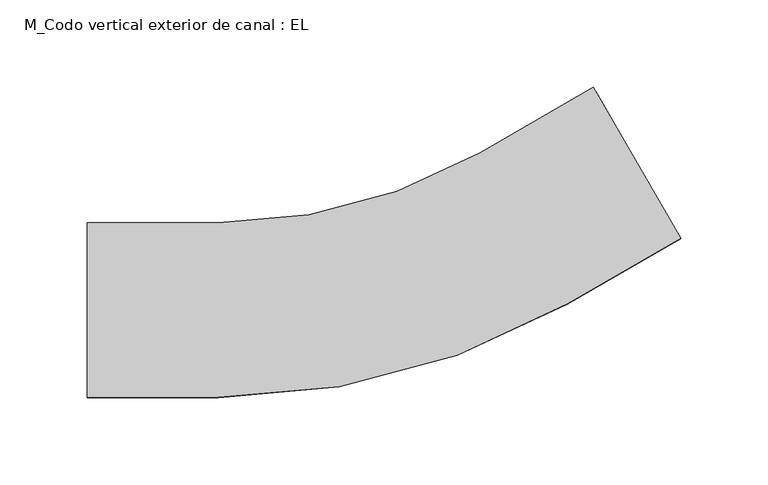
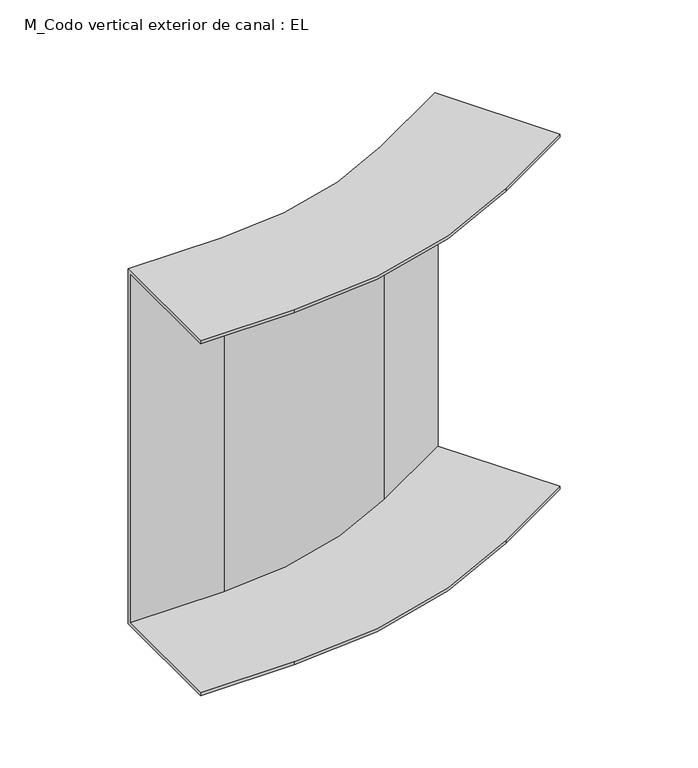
"""IFC4 building model written with IfcOpenShell, lengths in millimetres: cable carrier fitting geometry, M_Codo vertical exterior de canal : EL."""

from ifc_helpers import new_model, si_unit, frame, origin, place, context, project, spatial, polyline, circle_curve, source, transform, mapped, element, save
from ifc_brep_helpers import plane_surface, cylinder_surface, revolved_surface, advanced_brep


def m_codo_vertical_exterior_de_canal_el_c4dc7364(model_context):
    return source(origin(), model_context, "Body", "AdvancedBrep", [
        advanced_brep(
        [(-168.7822174, -50.0, 150.0), (-168.7822174, 50.0, 150.0), (-168.7822174, 50.0, -150.0), (-168.7822174, -50.0, -150.0), (-168.7822174, -50.0, -147.46), (-168.7822174, 47.46, -147.46), (-168.7822174, 47.46, 147.46), (-168.7822174, -50.0, 147.46), (171.1696879, 41.0898385, 150.0), (171.1696879, 41.0898385, 147.46), (122.4396879, 125.4926743, 147.46), (122.4396879, 125.4926743, -147.46), (171.1696879, 41.0898385, -147.46), (171.1696879, 41.0898385, -150.0), (121.1696879, 127.6923789, -150.0), (121.1696879, 127.6923789, 150.0), (-93.7822174, -50.0, 150.0), (106.2177826, 3.5898385, 150.0), (56.2177826, 90.1923789, 150.0), (-93.7822174, 50.0, 150.0), (-93.7822174, 50.0, -150.0), (56.2177826, 90.1923789, -150.0), (106.2177826, 3.5898385, -150.0), (-93.7822174, -50.0, -150.0), (-93.7822174, -50.0, -147.46), (106.2177826, 3.5898385, -147.46), (57.4877826, 87.9926743, -147.46), (-93.7822174, 47.46, -147.46), (-93.7822174, 47.46, 147.46), (57.4877826, 87.9926743, 147.46), (106.2177826, 3.5898385, 147.46), (-93.7822174, -50.0, 147.46)],
        [
            (0, 1),
            (1, 2),
            (2, 3),
            (3, 4),
            (4, 5),
            (5, 6),
            (6, 7),
            (7, 0),
            (8, 9),
            (9, 10),
            (10, 11),
            (11, 12),
            (12, 13),
            (13, 14),
            (14, 15),
            (15, 8),
            (0, 16),
            (16, 17, circle_curve(frame((-93.7822174, 350.0, 150.0), z_axis=(0.0, 0.0, 1.0), x_axis=(0.0, -1.0, 0.0)), 400.0)),
            (17, 8),
            (15, 18),
            (18, 19, circle_curve(frame((-93.7822174, 350.0, 150.0), z_axis=(0.0, 0.0, -1.0), x_axis=(0.0, -1.0, 0.0)), 300.0)),
            (19, 1),
            (19, 20),
            (20, 2),
            (20, 21, circle_curve(frame((-93.7822174, 350.0, -150.0), z_axis=(0.0, 0.0, 1.0), x_axis=(0.0, -1.0, 0.0)), 300.0)),
            (21, 14),
            (13, 22),
            (22, 23, circle_curve(frame((-93.7822174, 350.0, -150.0), z_axis=(0.0, 0.0, -1.0), x_axis=(0.0, -1.0, 0.0)), 400.0)),
            (23, 3),
            (23, 24),
            (24, 4),
            (24, 25, circle_curve(frame((-93.7822174, 350.0, -147.46), z_axis=(0.0, 0.0, 1.0), x_axis=(0.0, -1.0, 0.0)), 400.0)),
            (25, 12),
            (11, 26),
            (26, 27, circle_curve(frame((-93.7822174, 350.0, -147.46), z_axis=(0.0, 0.0, -1.0), x_axis=(0.0, -1.0, 0.0)), 302.54)),
            (27, 5),
            (27, 28),
            (28, 6),
            (28, 29, circle_curve(frame((-93.7822174, 350.0, 147.46), z_axis=(0.0, 0.0, 1.0), x_axis=(0.0, -1.0, 0.0)), 302.54)),
            (29, 10),
            (9, 30),
            (30, 31, circle_curve(frame((-93.7822174, 350.0, 147.46), z_axis=(0.0, 0.0, -1.0), x_axis=(0.0, -1.0, 0.0)), 400.0)),
            (31, 7),
            (31, 16),
            (18, 21),
            (22, 25),
            (26, 29),
            (30, 17),
        ],
        [
            plane_surface(frame((-168.7822174, 0.0, 0.0), z_axis=(-1.0, 0.0, 0.0), x_axis=(0.0, 0.0, 1.0))),
            plane_surface(frame((146.1696879, 84.3911087, 0.0), z_axis=(0.8660254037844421, 0.49999999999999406, 0.0), x_axis=(0.0, 0.0, 1.0))),
            plane_surface(frame((-168.7822174, -50.0, 150.0), z_axis=(0.0, 0.0, 1.0), x_axis=(1.0, 0.0, 0.0))),
            plane_surface(frame((-168.7822174, 50.0, 150.0), z_axis=(0.0, 1.0, 0.0), x_axis=(1.0, 0.0, 0.0))),
            plane_surface(frame((-168.7822174, 50.0, -150.0), z_axis=(0.0, 0.0, -1.0), x_axis=(1.0, 0.0, 0.0))),
            plane_surface(frame((-168.7822174, -50.0, -150.0), z_axis=(0.0, -1.0, 0.0), x_axis=(1.0, 0.0, 0.0))),
            plane_surface(frame((-168.7822174, -50.0, -147.46), z_axis=(0.0, 0.0, 1.0), x_axis=(1.0, 0.0, 0.0))),
            plane_surface(frame((-168.7822174, 47.46, -147.46), z_axis=(0.0, -1.0, 0.0), x_axis=(1.0, 0.0, 0.0))),
            plane_surface(frame((-168.7822174, 47.46, 147.46), z_axis=(0.0, 0.0, -1.0), x_axis=(1.0, 0.0, 0.0))),
            plane_surface(frame((-168.7822174, -50.0, 147.46), z_axis=(0.0, -1.0, 0.0), x_axis=(1.0, 0.0, 0.0))),
            revolved_surface(polyline([(-93.7822174, 50.0, 150.0), (-93.7822174, 50.0, -150.0)]), (-93.7822174, 350.0, 0.0), (0.0, 0.0, 1.0)),
            cylinder_surface(frame((-93.7822174, 350.0, 0.0), z_axis=(0.0, 0.0, 1.0), x_axis=(0.0, -1.0, 0.0)), 400.0),
            cylinder_surface(frame((-93.7822174, 350.0, 0.0), z_axis=(0.0, 0.0, 1.0), x_axis=(0.0, -1.0, 0.0)), 302.54),
            plane_surface(frame((56.2177826, 90.1923789, 150.0), z_axis=(-0.49999999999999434, 0.8660254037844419, 0.0), x_axis=(0.8660254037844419, 0.49999999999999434, 0.0))),
            plane_surface(frame((106.2177826, 3.5898385, -150.0), z_axis=(0.499999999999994, -0.8660254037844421, 0.0), x_axis=(0.8660254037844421, 0.499999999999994, 0.0))),
            plane_surface(frame((57.4877826, 87.9926743, -147.46), z_axis=(0.499999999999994, -0.8660254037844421, 0.0), x_axis=(0.8660254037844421, 0.499999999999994, 0.0))),
            plane_surface(frame((106.2177826, 3.5898385, 147.46), z_axis=(0.499999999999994, -0.8660254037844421, 0.0), x_axis=(0.8660254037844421, 0.499999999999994, 0.0))),
        ],
        [
            (0, [[1, 2, 3, 4, 5, 6, 7, 8]]),
            (1, [[9, 10, 11, 12, 13, 14, 15, 16]]),
            (2, [[-1, 17, 18, 19, -16, 20, 21, 22]]),
            (3, [[-2, -22, 23, 24]]),
            (4, [[-3, -24, 25, 26, -14, 27, 28, 29]]),
            (5, [[-4, -29, 30, 31]]),
            (6, [[-5, -31, 32, 33, -12, 34, 35, 36]]),
            (7, [[-6, -36, 37, 38]]),
            (8, [[-7, -38, 39, 40, -10, 41, 42, 43]]),
            (9, [[-8, -43, 44, -17]]),
            (10, [[-25, -23, -21, 45]]),
            (11, [[-32, -30, -28, 46]]),
            (12, [[-39, -37, -35, 47]]),
            (11, [[-18, -44, -42, 48]]),
            (13, [[-45, -20, -15, -26]]),
            (14, [[-46, -27, -13, -33]]),
            (15, [[-47, -34, -11, -40]]),
            (16, [[-48, -41, -9, -19]]),
        ],
    ),
    ])


if __name__ == "__main__":
    model = new_model("IFC4")
    model_context = context("Model", 3, world=origin())
    ifc_project = project(units=[si_unit("LENGTHUNIT", "METRE", prefix="MILLI")], contexts=[model_context])
    site = spatial("IfcSite", under=ifc_project)
    building = spatial("IfcBuilding", under=site)
    placement = place(None, origin())
    m_codo_vertical_exterior_de_canal_el_shape = m_codo_vertical_exterior_de_canal_el_c4dc7364(model_context)
    element("IfcCableCarrierFitting", 1, ObjectType="M_Codo vertical exterior de canal : EL", at=placement, inside=building, context=model_context, shape_type="MappedRepresentation", body=[
        mapped(m_codo_vertical_exterior_de_canal_el_shape, transform((0.0, 0.0, 0.0), x_axis=(1.0, 0.0, 0.0), y_axis=(0.0, 1.0, 0.0), z_axis=(0.0, 0.0, 1.0))),
    ])
    save(model, "model.ifc")
